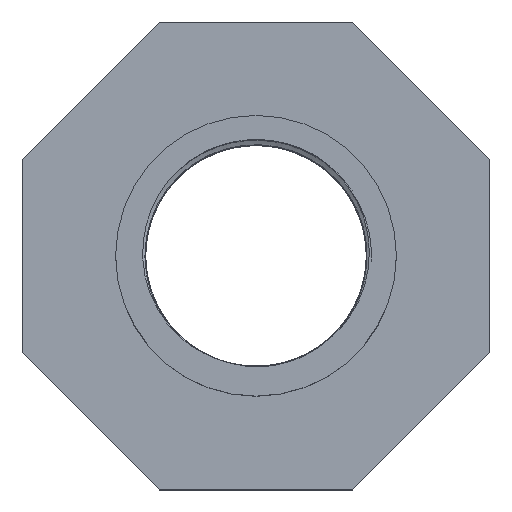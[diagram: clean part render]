
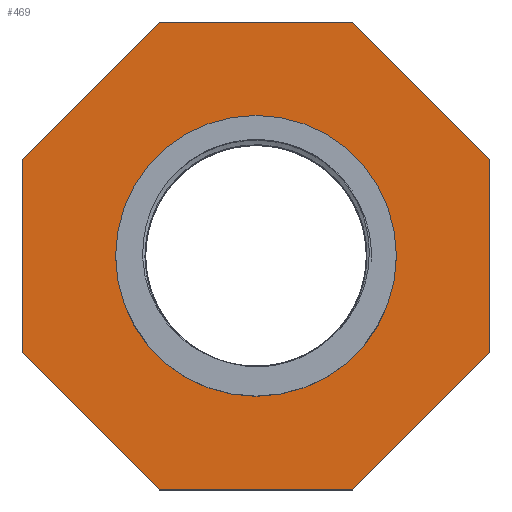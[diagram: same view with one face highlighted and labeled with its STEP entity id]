
A CAD part, top view. The second image highlights one B-rep face of the part: STEP entity #469.
In plain terms, the highlighted planar face has unit normal (0, 0, 1).
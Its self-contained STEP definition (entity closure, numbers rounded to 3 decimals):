
#16=FACE_BOUND('',#107,.T.);
#38=PLANE('',#497);
#49=CIRCLE('',#498,36.);
#76=FACE_OUTER_BOUND('',#106,.T.);
#106=EDGE_LOOP('',(#411,#412,#413,#414,#415,#416,#417,#418));
#107=EDGE_LOOP('',(#419));
#126=LINE('',#11587,#156);
#130=LINE('',#11595,#160);
#133=LINE('',#11601,#163);
#136=LINE('',#11607,#166);
#139=LINE('',#11613,#169);
#142=LINE('',#11619,#172);
#145=LINE('',#11625,#175);
#148=LINE('',#11630,#178);
#156=VECTOR('',#539,49.706);
#160=VECTOR('',#545,49.706);
#163=VECTOR('',#550,49.706);
#166=VECTOR('',#555,49.706);
#169=VECTOR('',#560,49.706);
#172=VECTOR('',#565,49.706);
#175=VECTOR('',#570,49.706);
#178=VECTOR('',#575,49.706);
#224=VERTEX_POINT('',#11585);
#225=VERTEX_POINT('',#11586);
#228=VERTEX_POINT('',#11594);
#230=VERTEX_POINT('',#11600);
#232=VERTEX_POINT('',#11606);
#234=VERTEX_POINT('',#11612);
#236=VERTEX_POINT('',#11618);
#238=VERTEX_POINT('',#11624);
#240=VERTEX_POINT('',#11634);
#280=EDGE_CURVE('',#224,#225,#126,.T.);
#284=EDGE_CURVE('',#228,#224,#130,.T.);
#287=EDGE_CURVE('',#230,#228,#133,.T.);
#290=EDGE_CURVE('',#232,#230,#136,.T.);
#293=EDGE_CURVE('',#234,#232,#139,.T.);
#296=EDGE_CURVE('',#236,#234,#142,.T.);
#299=EDGE_CURVE('',#238,#236,#145,.T.);
#302=EDGE_CURVE('',#225,#238,#148,.T.);
#304=EDGE_CURVE('',#240,#240,#49,.T.);
#411=ORIENTED_EDGE('',*,*,#302,.F.);
#412=ORIENTED_EDGE('',*,*,#280,.F.);
#413=ORIENTED_EDGE('',*,*,#284,.F.);
#414=ORIENTED_EDGE('',*,*,#287,.F.);
#415=ORIENTED_EDGE('',*,*,#290,.F.);
#416=ORIENTED_EDGE('',*,*,#293,.F.);
#417=ORIENTED_EDGE('',*,*,#296,.F.);
#418=ORIENTED_EDGE('',*,*,#299,.F.);
#419=ORIENTED_EDGE('',*,*,#304,.F.);
#469=ADVANCED_FACE('',(#76,#16),#38,.T.);
#497=AXIS2_PLACEMENT_3D('',#11633,#579,#580);
#498=AXIS2_PLACEMENT_3D('',#11635,#581,#582);
#539=DIRECTION('',(1.,0.,0.));
#545=DIRECTION('',(0.707,0.707,0.));
#550=DIRECTION('',(0.,1.,0.));
#555=DIRECTION('',(-0.707,0.707,0.));
#560=DIRECTION('',(-1.,0.,0.));
#565=DIRECTION('',(-0.707,-0.707,0.));
#570=DIRECTION('',(0.,-1.,0.));
#575=DIRECTION('',(0.707,-0.707,0.));
#579=DIRECTION('center_axis',(0.,0.,1.));
#580=DIRECTION('ref_axis',(1.,0.,0.));
#581=DIRECTION('center_axis',(0.,0.,1.));
#582=DIRECTION('ref_axis',(1.,0.,0.));
#11585=CARTESIAN_POINT('',(-24.853,60.,56.));
#11586=CARTESIAN_POINT('',(24.853,60.,56.));
#11587=CARTESIAN_POINT('',(-24.853,60.,56.));
#11594=CARTESIAN_POINT('',(-60.,24.853,56.));
#11595=CARTESIAN_POINT('',(-60.,24.853,56.));
#11600=CARTESIAN_POINT('',(-60.,-24.853,56.));
#11601=CARTESIAN_POINT('',(-60.,-24.853,56.));
#11606=CARTESIAN_POINT('',(-24.853,-60.,56.));
#11607=CARTESIAN_POINT('',(-24.853,-60.,56.));
#11612=CARTESIAN_POINT('',(24.853,-60.,56.));
#11613=CARTESIAN_POINT('',(24.853,-60.,56.));
#11618=CARTESIAN_POINT('',(60.,-24.853,56.));
#11619=CARTESIAN_POINT('',(60.,-24.853,56.));
#11624=CARTESIAN_POINT('',(60.,24.853,56.));
#11625=CARTESIAN_POINT('',(60.,24.853,56.));
#11630=CARTESIAN_POINT('',(24.853,60.,56.));
#11633=CARTESIAN_POINT('Origin',(36.,0.,56.));
#11634=CARTESIAN_POINT('',(36.,0.,56.));
#11635=CARTESIAN_POINT('Origin',(0.,0.,56.));
